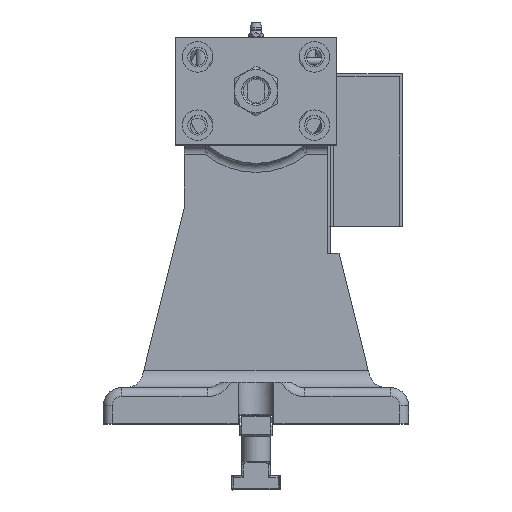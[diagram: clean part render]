
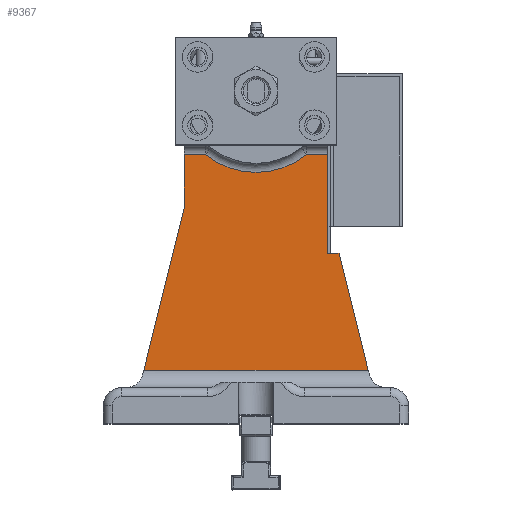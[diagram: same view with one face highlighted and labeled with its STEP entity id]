
A CAD part, top view. The second image highlights one B-rep face of the part: STEP entity #9367.
In plain terms, the highlighted planar face has unit normal (0, 0, 1).
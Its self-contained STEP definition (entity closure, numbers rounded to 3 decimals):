
#76 = DIRECTION ( 'NONE',  ( -1., 0., 0. ) ) ;
#198 = LINE ( 'NONE', #1155, #7660 ) ;
#258 = ORIENTED_EDGE ( 'NONE', *, *, #9118, .T. ) ;
#316 = ORIENTED_EDGE ( 'NONE', *, *, #5488, .T. ) ;
#629 = DIRECTION ( 'NONE',  ( -1., 0., 0. ) ) ;
#682 = LINE ( 'NONE', #11663, #6239 ) ;
#742 = CARTESIAN_POINT ( 'NONE',  ( -40., 150., 190. ) ) ;
#832 = DIRECTION ( 'NONE',  ( -1., 0., 0. ) ) ;
#1155 = CARTESIAN_POINT ( 'NONE',  ( -40., 120., 190. ) ) ;
#1165 = CIRCLE ( 'NONE', #4608, 45. ) ;
#1504 = CARTESIAN_POINT ( 'NONE',  ( 65., 20., 190. ) ) ;
#1660 = FACE_OUTER_BOUND ( 'NONE', #4646, .T. ) ;
#2033 = CARTESIAN_POINT ( 'NONE',  ( 40., 215., 190. ) ) ;
#2069 = EDGE_CURVE ( 'NONE', #9095, #3565, #1165, .T. ) ;
#2564 = CARTESIAN_POINT ( 'NONE',  ( -40., 20., 190. ) ) ;
#2816 = VERTEX_POINT ( 'NONE', #7526 ) ;
#2907 = VECTOR ( 'NONE', #8166, 1000. ) ;
#3193 = VECTOR ( 'NONE', #7136, 1000. ) ;
#3214 = VECTOR ( 'NONE', #11799, 1000. ) ;
#3380 = VERTEX_POINT ( 'NONE', #742 ) ;
#3393 = LINE ( 'NONE', #7107, #10521 ) ;
#3426 = LINE ( 'NONE', #1504, #3193 ) ;
#3565 = VERTEX_POINT ( 'NONE', #3917 ) ;
#3672 = DIRECTION ( 'NONE',  ( -0.243, -0.97, 0. ) ) ;
#3732 = CARTESIAN_POINT ( 'NONE',  ( -10.567, 29.9, 190. ) ) ;
#3897 = CARTESIAN_POINT ( 'NONE',  ( 40., 95., 190. ) ) ;
#3917 = CARTESIAN_POINT ( 'NONE',  ( -28.284, 150., 190. ) ) ;
#4211 = CARTESIAN_POINT ( 'NONE',  ( 28.284, 150., 190. ) ) ;
#4608 = AXIS2_PLACEMENT_3D ( 'NONE', #4633, #8369, #76 ) ;
#4633 = CARTESIAN_POINT ( 'NONE',  ( 0., 185., 190. ) ) ;
#4646 = EDGE_LOOP ( 'NONE', ( #9245, #10524, #9284, #10340, #8683, #258, #8003, #316, #10211 ) ) ;
#4810 = EDGE_CURVE ( 'NONE', #3380, #10388, #9091, .T. ) ;
#5085 = VECTOR ( 'NONE', #7446, 1000. ) ;
#5203 = DIRECTION ( 'NONE',  ( -1., 0., 0. ) ) ;
#5488 = EDGE_CURVE ( 'NONE', #11325, #8871, #10339, .T. ) ;
#5666 = VERTEX_POINT ( 'NONE', #5821 ) ;
#5701 = DIRECTION ( 'NONE',  ( 0., 1., 0. ) ) ;
#5821 = CARTESIAN_POINT ( 'NONE',  ( 62.525, 29.9, 190. ) ) ;
#6239 = VECTOR ( 'NONE', #629, 1000. ) ;
#6442 = DIRECTION ( 'NONE',  ( 0., 0., -1. ) ) ;
#7107 = CARTESIAN_POINT ( 'NONE',  ( 85., 95., 190. ) ) ;
#7136 = DIRECTION ( 'NONE',  ( -0.243, 0.97, 0. ) ) ;
#7223 = EDGE_CURVE ( 'NONE', #9876, #11325, #3393, .T. ) ;
#7370 = VECTOR ( 'NONE', #5701, 1000. ) ;
#7446 = DIRECTION ( 'NONE',  ( 1., 0., 0. ) ) ;
#7526 = CARTESIAN_POINT ( 'NONE',  ( -62.525, 29.9, 190. ) ) ;
#7660 = VECTOR ( 'NONE', #3672, 1000. ) ;
#7668 = EDGE_CURVE ( 'NONE', #3565, #3380, #682, .T. ) ;
#7819 = EDGE_CURVE ( 'NONE', #2816, #5666, #8379, .T. ) ;
#8003 = ORIENTED_EDGE ( 'NONE', *, *, #7223, .T. ) ;
#8166 = DIRECTION ( 'NONE',  ( 0., -1., 0. ) ) ;
#8206 = LINE ( 'NONE', #8273, #3214 ) ;
#8273 = CARTESIAN_POINT ( 'NONE',  ( 33.541, 150., 190. ) ) ;
#8369 = DIRECTION ( 'NONE',  ( 0., 0., -1. ) ) ;
#8379 = LINE ( 'NONE', #3732, #5085 ) ;
#8683 = ORIENTED_EDGE ( 'NONE', *, *, #7819, .T. ) ;
#8871 = VERTEX_POINT ( 'NONE', #9634 ) ;
#9091 = LINE ( 'NONE', #11877, #2907 ) ;
#9095 = VERTEX_POINT ( 'NONE', #4211 ) ;
#9118 = EDGE_CURVE ( 'NONE', #5666, #9876, #3426, .T. ) ;
#9245 = ORIENTED_EDGE ( 'NONE', *, *, #2069, .T. ) ;
#9284 = ORIENTED_EDGE ( 'NONE', *, *, #4810, .T. ) ;
#9367 = ADVANCED_FACE ( 'NONE', ( #1660 ), #10941, .F. ) ;
#9634 = CARTESIAN_POINT ( 'NONE',  ( 40., 150., 190. ) ) ;
#9876 = VERTEX_POINT ( 'NONE', #11944 ) ;
#9974 = AXIS2_PLACEMENT_3D ( 'NONE', #2564, #6442, #832 ) ;
#10098 = EDGE_CURVE ( 'NONE', #8871, #9095, #8206, .T. ) ;
#10211 = ORIENTED_EDGE ( 'NONE', *, *, #10098, .T. ) ;
#10339 = LINE ( 'NONE', #2033, #7370 ) ;
#10340 = ORIENTED_EDGE ( 'NONE', *, *, #10954, .T. ) ;
#10388 = VERTEX_POINT ( 'NONE', #10392 ) ;
#10392 = CARTESIAN_POINT ( 'NONE',  ( -40., 120., 190. ) ) ;
#10521 = VECTOR ( 'NONE', #5203, 1000. ) ;
#10524 = ORIENTED_EDGE ( 'NONE', *, *, #7668, .T. ) ;
#10941 = PLANE ( 'NONE',  #9974 ) ;
#10954 = EDGE_CURVE ( 'NONE', #10388, #2816, #198, .T. ) ;
#11325 = VERTEX_POINT ( 'NONE', #3897 ) ;
#11663 = CARTESIAN_POINT ( 'NONE',  ( -40., 150., 190. ) ) ;
#11799 = DIRECTION ( 'NONE',  ( -1., 0., 0. ) ) ;
#11877 = CARTESIAN_POINT ( 'NONE',  ( -40., 215., 190. ) ) ;
#11944 = CARTESIAN_POINT ( 'NONE',  ( 46.25, 95., 190. ) ) ;
